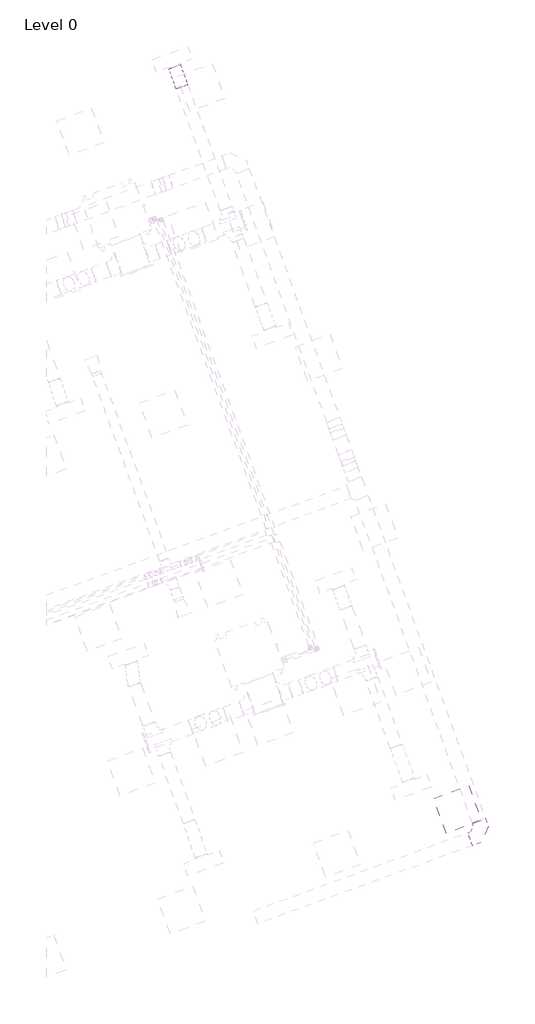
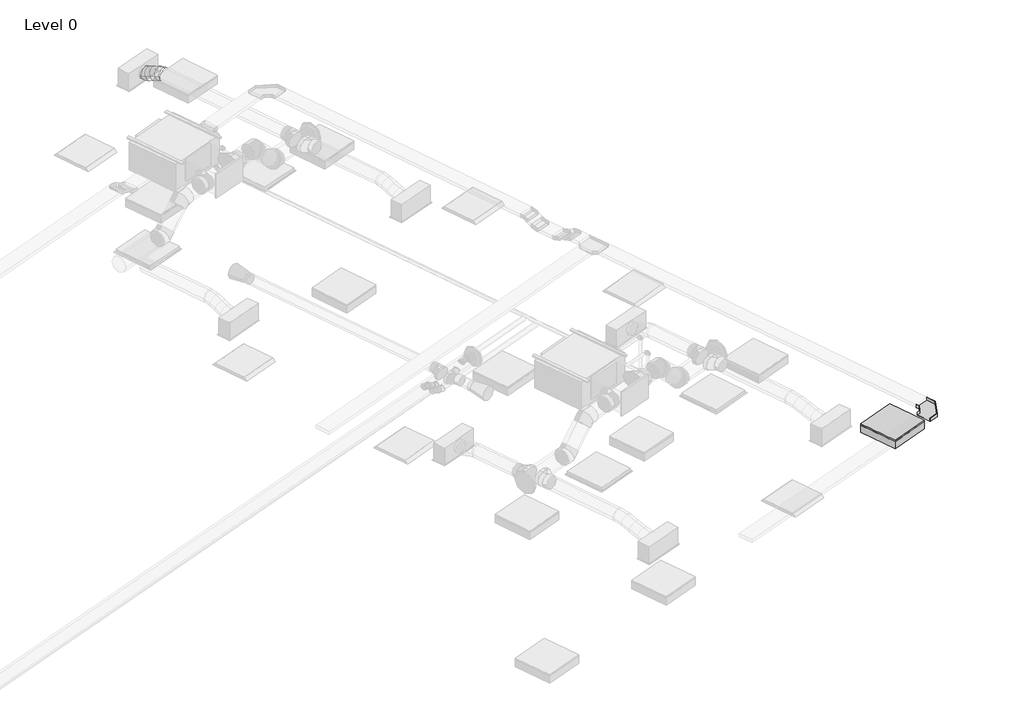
# One storey, part 34 of 34: 1 cable carrier fitting, 1 duct segment, 1 light fixture.
"""IFC4 building model written with IfcOpenShell, lengths in millimetres."""

from ifc_helpers import new_model, si_unit, frame, origin, place, context, project, spatial, circle_curve, ellipse_curve, transform, mapped, element, save
from ifc_brep_helpers import plane_surface, cylinder_surface, advanced_brep
from components import cable_tray_horizontal_bend_standard_fd552271, troffer_light_2x2_parabolic_2_x2_2_lamp_120v_6a063ff3

model = new_model("IFC4")

# Units and contexts
model_context = context("Model", 3, world=origin())
ifc_project = project(units=[si_unit("LENGTHUNIT", "METRE", prefix="MILLI")], contexts=[model_context])

# Site, building, storey
site = spatial("IfcSite", under=ifc_project)
building = spatial("IfcBuilding", under=site)
storey = spatial("IfcBuildingStorey", under=building, Name="Level 0", Elevation=0.0)

# Cable carrier fitting
placement = place(None, origin())
cable_tray_horizontal_bend_standard_shape = cable_tray_horizontal_bend_standard_fd552271(model_context)
element("IfcCableCarrierFitting", 1, ObjectType="Cable Tray Horizontal Bend : Standard", at=placement, inside=storey, context=model_context, shape_type="MappedRepresentation", body=[
    mapped(cable_tray_horizontal_bend_standard_shape, transform((64419.4120815, 12194.2633634, 3248.9627355), x_axis=(0.9396926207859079, 0.34202014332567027, 0.0), y_axis=(-0.34202014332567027, 0.9396926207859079, 0.0), z_axis=(0.0, 0.0, 1.0))),
])

# Duct segment
element("IfcDuctSegment", 2, ObjectType="Flex - Round", at=placement, inside=storey, context=model_context, shape_type="AdvancedBrep", body=[
    advanced_brep(
    [(59391.7751792, 24361.973208, 3072.2088531), (59485.7444412, 24396.1752224, 2972.2088531), (59579.7137033, 24430.3772367, 3072.2088531), (59485.7444412, 24396.1752224, 3172.2088531), (59384.8944506, 24380.8778543, 3072.2088531), (59483.3156619, 24402.8482387, 2972.2088531), (59572.8329748, 24449.2818829, 3072.2088531), (59474.4117635, 24427.3114985, 3172.2088531), (59271.6228807, 24692.0889348, 2954.4), (59365.5921428, 24726.2909491, 3054.4), (59459.5614049, 24760.4929635, 2954.4), (59365.5921428, 24726.2909491, 2854.4), (59361.1205901, 24446.1959993, 3053.8012198), (59466.8476139, 24448.0938289, 2959.4579669), (59549.0591142, 24514.600028, 3053.8012198), (59443.3320905, 24512.7021984, 3148.1444727), (59331.69903, 24527.0310714, 3013.3044266), (59440.2359538, 24521.208764, 2922.8288116), (59519.6375541, 24595.4351001, 3013.3044266), (59411.1006303, 24601.2574075, 3103.7800415), (59302.2774698, 24607.8661435, 2972.8076333), (59408.0044936, 24609.7639731, 2878.4643804), (59490.215994, 24676.2701722, 2972.8076333), (59384.4889702, 24674.3723426, 3067.1508862), (59278.5036093, 24673.1842886, 2954.4), (59376.9248206, 24695.154673, 2854.4), (59466.4421334, 24741.5883172, 2954.4), (59368.0209221, 24719.6179328, 3054.4)],
    [
        (0, 1, circle_curve(frame((59485.7444412, 24396.1752224, 3072.2088531), z_axis=(0.3420201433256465, -0.9396926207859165, 0.0), x_axis=(-0.9396926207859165, -0.3420201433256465, 0.0)), 100.0)),
        (1, 2, circle_curve(frame((59485.7444412, 24396.1752224, 3072.2088531), z_axis=(0.3420201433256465, -0.9396926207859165, 0.0), x_axis=(-0.9396926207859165, -0.3420201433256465, 0.0)), 100.0)),
        (2, 3, circle_curve(frame((59485.7444412, 24396.1752224, 3072.2088531), z_axis=(0.3420201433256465, -0.9396926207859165, 0.0), x_axis=(-0.9396926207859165, -0.3420201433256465, 0.0)), 100.0)),
        (3, 0, circle_curve(frame((59485.7444412, 24396.1752224, 3072.2088531), z_axis=(0.3420201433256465, -0.9396926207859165, 0.0), x_axis=(-0.9396926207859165, -0.3420201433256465, 0.0)), 100.0)),
        (0, 4),
        (4, 5, ellipse_curve(frame((59478.8637127, 24415.0798686, 3072.2088531), z_axis=(0.3391589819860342, -0.9318316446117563, 0.1290773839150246), x_axis=(0.044147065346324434, -0.12129306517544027, -0.9916345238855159)), 100.8436048, 100.0)),
        (5, 1),
        (5, 6, ellipse_curve(frame((59478.8637127, 24415.0798686, 3072.2088531), z_axis=(0.3391589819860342, -0.9318316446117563, 0.1290773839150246), x_axis=(0.044147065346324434, -0.12129306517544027, -0.9916345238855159)), 100.8436048, 100.0)),
        (6, 2),
        (6, 7, ellipse_curve(frame((59478.8637127, 24415.0798686, 3072.2088531), z_axis=(0.3391589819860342, -0.9318316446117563, 0.1290773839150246), x_axis=(0.044147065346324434, -0.12129306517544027, -0.9916345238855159)), 100.8436048, 100.0)),
        (7, 3),
        (7, 4, ellipse_curve(frame((59478.8637127, 24415.0798686, 3072.2088531), z_axis=(0.3391589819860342, -0.9318316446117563, 0.1290773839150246), x_axis=(0.044147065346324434, -0.12129306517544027, -0.9916345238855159)), 100.8436048, 100.0)),
        (8, 9, circle_curve(frame((59365.5921428, 24726.2909491, 2954.4), z_axis=(-0.3420201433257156, 0.9396926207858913, 0.0), x_axis=(-0.9396926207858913, -0.3420201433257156, 0.0)), 100.0)),
        (9, 10, circle_curve(frame((59365.5921428, 24726.2909491, 2954.4), z_axis=(-0.3420201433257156, 0.9396926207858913, 0.0), x_axis=(-0.9396926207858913, -0.3420201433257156, 0.0)), 100.0)),
        (10, 11, circle_curve(frame((59365.5921428, 24726.2909491, 2954.4), z_axis=(-0.3420201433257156, 0.9396926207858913, 0.0), x_axis=(-0.9396926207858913, -0.3420201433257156, 0.0)), 100.0)),
        (11, 8, circle_curve(frame((59365.5921428, 24726.2909491, 2954.4), z_axis=(-0.3420201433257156, 0.9396926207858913, 0.0), x_axis=(-0.9396926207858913, -0.3420201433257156, 0.0)), 100.0)),
        (4, 12),
        (12, 13, ellipse_curve(frame((59455.0898522, 24480.3980136, 3053.8012198), z_axis=(0.32135080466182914, -0.8829040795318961, 0.34236537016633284), x_axis=(0.11709585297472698, -0.3217182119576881, -0.9395668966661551)), 100.411427, 100.0)),
        (13, 5),
        (13, 14, ellipse_curve(frame((59455.0898522, 24480.3980136, 3053.8012198), z_axis=(0.32135080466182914, -0.8829040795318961, 0.34236537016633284), x_axis=(0.11709585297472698, -0.3217182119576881, -0.9395668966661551)), 100.411427, 100.0)),
        (14, 6),
        (14, 15, ellipse_curve(frame((59455.0898522, 24480.3980136, 3053.8012198), z_axis=(0.32135080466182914, -0.8829040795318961, 0.34236537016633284), x_axis=(0.11709585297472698, -0.3217182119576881, -0.9395668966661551)), 100.411427, 100.0)),
        (15, 7),
        (15, 12, ellipse_curve(frame((59455.0898522, 24480.3980136, 3053.8012198), z_axis=(0.32135080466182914, -0.8829040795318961, 0.34236537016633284), x_axis=(0.11709585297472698, -0.3217182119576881, -0.9395668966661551)), 100.411427, 100.0)),
        (12, 16),
        (16, 17, circle_curve(frame((59425.668292, 24561.2330858, 3013.3044266), z_axis=(0.30944482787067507, -0.8501926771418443, 0.42592993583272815), x_axis=(-0.9396926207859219, -0.3420201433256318, 0.0)), 100.0)),
        (17, 13),
        (17, 18, circle_curve(frame((59425.668292, 24561.2330858, 3013.3044266), z_axis=(0.30944482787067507, -0.8501926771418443, 0.42592993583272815), x_axis=(-0.9396926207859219, -0.3420201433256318, 0.0)), 100.0)),
        (18, 14),
        (18, 19, circle_curve(frame((59425.668292, 24561.2330858, 3013.3044266), z_axis=(0.30944482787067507, -0.8501926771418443, 0.42592993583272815), x_axis=(-0.9396926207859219, -0.3420201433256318, 0.0)), 100.0)),
        (19, 15),
        (19, 16, circle_curve(frame((59425.668292, 24561.2330858, 3013.3044266), z_axis=(0.30944482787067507, -0.8501926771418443, 0.42592993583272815), x_axis=(-0.9396926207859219, -0.3420201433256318, 0.0)), 100.0)),
        (16, 20),
        (20, 21, ellipse_curve(frame((59396.2467319, 24642.0681579, 2972.8076333), z_axis=(0.3213508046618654, -0.882904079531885, 0.3423653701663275), x_axis=(-0.11709585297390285, 0.32171821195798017, 0.9395668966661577)), 100.411427, 100.0)),
        (21, 17),
        (21, 22, ellipse_curve(frame((59396.2467319, 24642.0681579, 2972.8076333), z_axis=(0.3213508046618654, -0.882904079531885, 0.3423653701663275), x_axis=(-0.11709585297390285, 0.32171821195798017, 0.9395668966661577)), 100.411427, 100.0)),
        (22, 18),
        (22, 23, ellipse_curve(frame((59396.2467319, 24642.0681579, 2972.8076333), z_axis=(0.3213508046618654, -0.882904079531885, 0.3423653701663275), x_axis=(-0.11709585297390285, 0.32171821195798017, 0.9395668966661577)), 100.411427, 100.0)),
        (23, 19),
        (23, 20, ellipse_curve(frame((59396.2467319, 24642.0681579, 2972.8076333), z_axis=(0.3213508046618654, -0.882904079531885, 0.3423653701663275), x_axis=(-0.11709585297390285, 0.32171821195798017, 0.9395668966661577)), 100.411427, 100.0)),
        (20, 24),
        (24, 25, ellipse_curve(frame((59372.4728713, 24707.3863029, 2954.4), z_axis=(0.3391589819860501, -0.9318316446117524, 0.12907738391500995), x_axis=(-0.04414706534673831, 0.12129306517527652, 0.9916345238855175)), 100.8436048, 100.0)),
        (25, 21),
        (25, 26, ellipse_curve(frame((59372.4728713, 24707.3863029, 2954.4), z_axis=(0.3391589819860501, -0.9318316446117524, 0.12907738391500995), x_axis=(-0.04414706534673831, 0.12129306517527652, 0.9916345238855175)), 100.8436048, 100.0)),
        (26, 22),
        (26, 27, ellipse_curve(frame((59372.4728713, 24707.3863029, 2954.4), z_axis=(0.3391589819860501, -0.9318316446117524, 0.12907738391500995), x_axis=(-0.04414706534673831, 0.12129306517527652, 0.9916345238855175)), 100.8436048, 100.0)),
        (27, 23),
        (27, 24, ellipse_curve(frame((59372.4728713, 24707.3863029, 2954.4), z_axis=(0.3391589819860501, -0.9318316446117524, 0.12907738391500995), x_axis=(-0.04414706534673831, 0.12129306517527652, 0.9916345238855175)), 100.8436048, 100.0)),
        (24, 8),
        (11, 25),
        (10, 26),
        (9, 27),
    ],
    [
        plane_surface(frame((59485.7444412, 24396.1752224, 3172.2088531), z_axis=(0.3420201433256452, -0.939692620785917, 0.0), x_axis=(0.939692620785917, 0.3420201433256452, 0.0))),
        cylinder_surface(frame((59485.7444412, 24396.1752224, 3072.2088531), z_axis=(0.3420201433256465, -0.9396926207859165, 0.0), x_axis=(-0.9396926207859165, -0.3420201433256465, 0.0)), 100.0),
        plane_surface(frame((59365.5921428, 24726.2909491, 3054.4), z_axis=(-0.3420201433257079, 0.9396926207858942, 0.0), x_axis=(0.9396926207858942, 0.3420201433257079, 0.0))),
        cylinder_surface(frame((59478.8637127, 24415.0798686, 3072.2088531), z_axis=(0.3306233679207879, -0.9083802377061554, 0.25599518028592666), x_axis=(-0.9396926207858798, -0.34202014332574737, 0.0)), 100.0),
        cylinder_surface(frame((59455.0898522, 24480.3980136, 3053.8012198), z_axis=(0.30944482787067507, -0.8501926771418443, 0.42592993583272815), x_axis=(-0.9396926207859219, -0.3420201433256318, 0.0)), 100.0),
        cylinder_surface(frame((59425.668292, 24561.2330858, 3013.3044266), z_axis=(0.3094448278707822, -0.8501926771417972, 0.4259299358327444), x_axis=(-0.9396926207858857, -0.3420201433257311, 0.0)), 100.0),
        cylinder_surface(frame((59396.2467319, 24642.0681579, 2972.8076333), z_axis=(0.3306233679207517, -0.9083802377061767, 0.2559951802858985), x_axis=(-0.9396926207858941, -0.34202014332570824, 0.0)), 100.0),
        cylinder_surface(frame((59372.4728713, 24707.3863029, 2954.4), z_axis=(0.3420201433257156, -0.9396926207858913, 0.0), x_axis=(-0.9396926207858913, -0.3420201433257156, 0.0)), 100.0),
    ],
    [
        (0, [[1, 2, 3, 4]]),
        (1, [[-1, 5, 6, 7]]),
        (1, [[-2, -7, 8, 9]]),
        (1, [[-3, -9, 10, 11]]),
        (1, [[-4, -11, 12, -5]]),
        (2, [[13, 14, 15, 16]]),
        (3, [[-6, 17, 18, 19]]),
        (3, [[-8, -19, 20, 21]]),
        (3, [[-10, -21, 22, 23]]),
        (3, [[-12, -23, 24, -17]]),
        (4, [[-18, 25, 26, 27]]),
        (4, [[-20, -27, 28, 29]]),
        (4, [[-22, -29, 30, 31]]),
        (4, [[-24, -31, 32, -25]]),
        (5, [[-26, 33, 34, 35]]),
        (5, [[-28, -35, 36, 37]]),
        (5, [[-30, -37, 38, 39]]),
        (5, [[-32, -39, 40, -33]]),
        (6, [[-34, 41, 42, 43]]),
        (6, [[-36, -43, 44, 45]]),
        (6, [[-38, -45, 46, 47]]),
        (6, [[-40, -47, 48, -41]]),
        (7, [[-42, 49, -16, 50]]),
        (7, [[-44, -50, -15, 51]]),
        (7, [[-46, -51, -14, 52]]),
        (7, [[-48, -52, -13, -49]]),
    ],
),
])

# Light fixture
troffer_light_2x2_parabolic_2_x2_2_lamp_120v_shape = troffer_light_2x2_parabolic_2_x2_2_lamp_120v_6a063ff3(model_context)
element("IfcLightFixture", 3, ObjectType="Troffer Light - 2x2 Parabolic : 2'x2'(2 Lamp) - 120V", at=placement, inside=storey, context=model_context, shape_type="MappedRepresentation", body=[
    mapped(troffer_light_2x2_parabolic_2_x2_2_lamp_120v_shape, transform((64093.1824859, 12310.7748374, 2800.0), x_axis=(0.9396926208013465, 0.3420201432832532, 0.0), y_axis=(0.3420201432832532, -0.9396926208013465, 0.0), z_axis=(0.0, 0.0, -1.0))),
])

save(model, "model.ifc")
